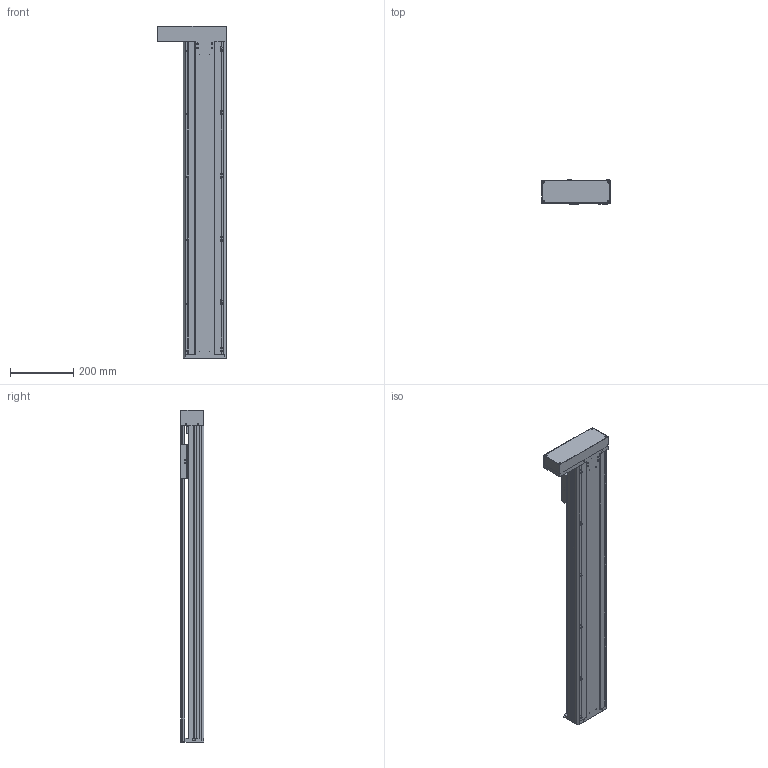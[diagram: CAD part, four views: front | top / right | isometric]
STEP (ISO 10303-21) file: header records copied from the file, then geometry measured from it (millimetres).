
FILE_DESCRIPTION(/* description */ (''),/* implementation_level */ '2;1');
FILE_NAME(/* name */ 'TKA136-FL-800_asm1.stp',/* time_stamp */ '2016-05-07T13:26:57+08:00',/* author */ (''),/* organization */ (''),/* preprocessor_version */ 'ST-DEVELOPER v15',/* originating_system */ 'SIEMENS PLM Software NX 8.5',/* authorisation */ '');
FILE_SCHEMA (('AUTOMOTIVE_DESIGN { 1 0 10303 214 3 1 1 1 }'));
Length unit declared in the file: millimetre
Products named in the file (3): 100-02; 100-01; TKA136-FL-800_asm1
Assembly tree (2 placements, depth 2):
  TKA136-FL-800_asm1
    100-01
    100-02
Bounding box: 216 x 75 x 1050 mm (x, y, z)
Volume: 3188838.1 mm3; surface area: 1264036 mm2
Topology: 2 solids, 12 shells, 902 faces, 2566 edges, 1675 vertices
Faces by surface type: cylinder 428, plane 423, cone 51
Full cylindrical faces by diameter (mm): 2.5 x14, 3 x2, 3.3 x13, 4 x4, 4.2 x6, 4.5 x24, 5 x20, 5.5 x26, 6.6 x16, 8 x20, 10 x9, 10.5 x12, 11 x4, 11.6 x1, 12 x9, 15 x3, 16 x5, 17 x1, 24 x5, 26 x1, 28 x1, 46 x1, 50 x1
Entity records: 30432 total; most frequent: CARTESIAN_POINT 8112, DIRECTION 4608, ORIENTED_EDGE 4350, EDGE_CURVE 2175, AXIS2_PLACEMENT_3D 1743, VERTEX_POINT 1552, EDGE_LOOP 1346, LINE 1122
